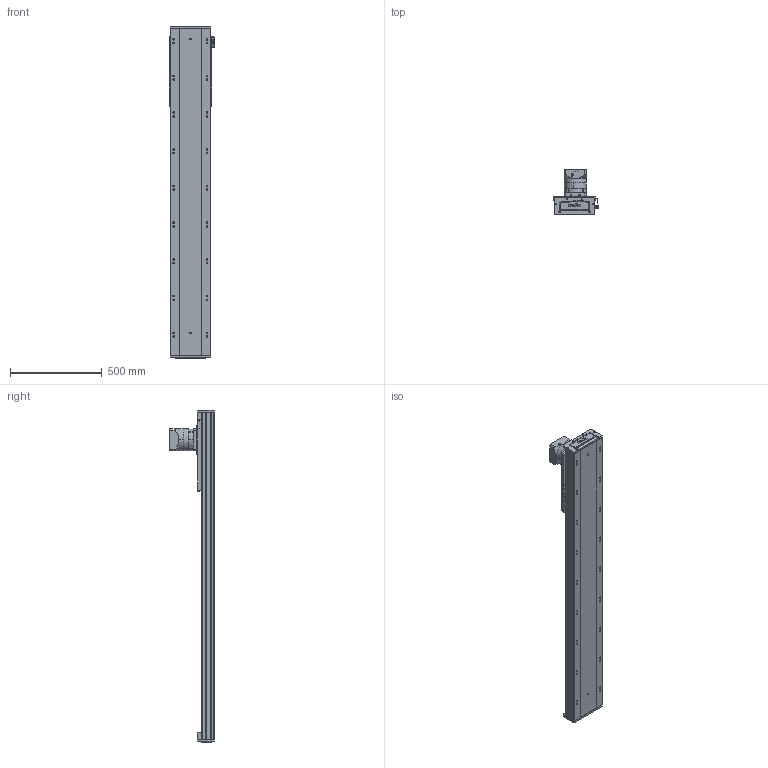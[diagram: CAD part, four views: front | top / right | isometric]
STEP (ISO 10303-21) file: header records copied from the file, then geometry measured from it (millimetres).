
FILE_DESCRIPTION (( 'STEP AP203' ), '1' );
FILE_NAME ('RY220-C-300-UK.SLDASM_1300.step', '2022-08-01T05:59:14', ( '' ), ( '' ), 'SwSTEP 2.0', 'SolidWorks 2016', '' );
FILE_SCHEMA (( 'CONFIG_CONTROL_DESIGN' ));
Length unit declared in the file: millimetre
Products named in the file (10): RY220喘沭俋离覜茼え; RY220菁釱MK-300_1300; RY220喘沭賑輸; RY140直线电机感应器674光电安装座; RY220-C-300-UK.SLDASM_1300; RY220-齿条模组电机安装板; 滅袉蝶輸ㄗG412隅秶ㄘ; 覜茼ん674; RY220喘沭綴裔啣; PF115L1-S2-22-58-110-145-M8
Assembly tree (12 placements, depth 2):
  RY220-C-300-UK.SLDASM_1300
    RY220菁釱MK-300_1300
    RY220喘沭賑輸
    RY220-齿条模组电机安装板
    PF115L1-S2-22-58-110-145-M8
    RY220喘沭綴裔啣  x2
    滅袉蝶輸ㄗG412隅秶ㄘ  x2
    RY140直线电机感应器674光电安装座
    覜茼ん674  x2
    RY220喘沭俋离覜茼え
Bounding box: 247 x 244.5 x 1809 mm (x, y, z)
Volume: 14011560.7 mm3; surface area: 2782881.5 mm2
Topology: 18 solids, 26 shells, 2036 faces, 5457 edges, 3461 vertices
Faces by surface type: cylinder 937, plane 751, cone 186, bspline 162
Entity records: 64325 total; most frequent: CARTESIAN_POINT 17649, DIRECTION 9543, ORIENTED_EDGE 9442, EDGE_CURVE 4721, AXIS2_PLACEMENT_3D 3623, VERTEX_POINT 3087, EDGE_LOOP 2316, VECTOR 2297
